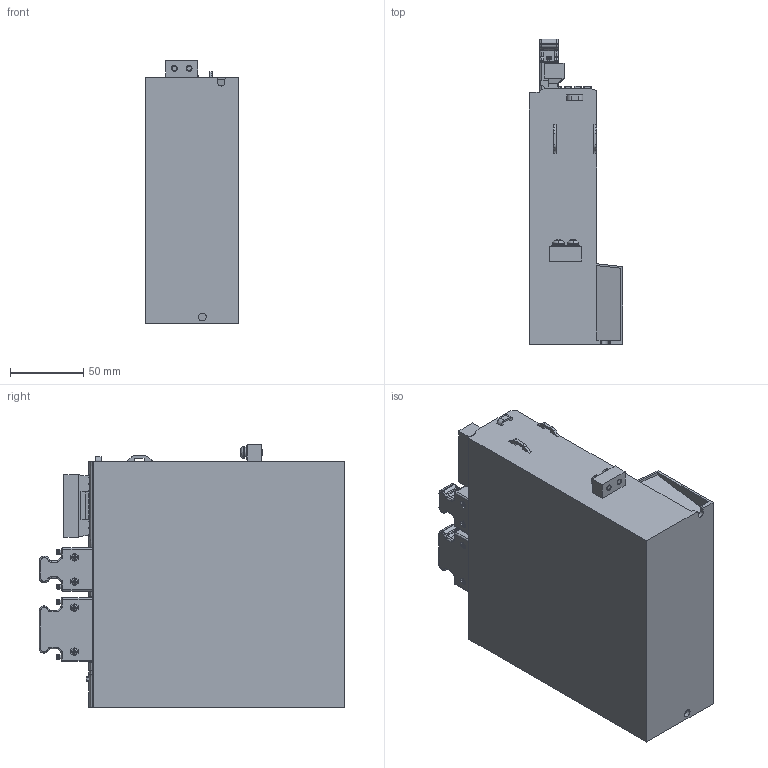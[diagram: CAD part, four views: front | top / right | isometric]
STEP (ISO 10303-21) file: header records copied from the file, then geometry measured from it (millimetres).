
FILE_DESCRIPTION((''),'2;1');
FILE_NAME('1_5KW_ASM','2023-04-19T',('Administrator'),(''),'CREO PARAMETRIC BY PTC INC, 2017480','CREO PARAMETRIC BY PTC INC, 2017480','');
FILE_SCHEMA(('CONFIG_CONTROL_DESIGN'));
Products named in the file (6): 1_5KW; GB9074_4-88-DIANPIAN_M4X12; DB-36_1_1; DB-14_1_1; E-8PIN-TOU; 1_5KW_ASM
Assembly tree (6 placements, depth 2):
  1_5KW_ASM
    1_5KW
    GB9074_4-88-DIANPIAN_M4X12  x2
    DB-36_1_1
    DB-14_1_1
    E-8PIN-TOU
Bounding box: 64 x 208.4 x 179.5 mm (x, y, z)
Volume: 1518265.3 mm3; surface area: 133860.1 mm2
Topology: 6 solids, 7 shells, 2635 faces, 6885 edges, 4521 vertices
Faces by surface type: plane 1924, cylinder 594, torus 46, extrusion 33, revolution 16, sphere 12, cone 6, bspline 4
Entity records: 95005 total; most frequent: CARTESIAN_POINT 15794, ORIENTED_EDGE 13618, DIRECTION 13072, EDGE_CURVE 6809, VECTOR 5314, LINE 5281, VERTEX_POINT 4477, PRESENTATION_STYLE_ASSIGNMENT 4270
